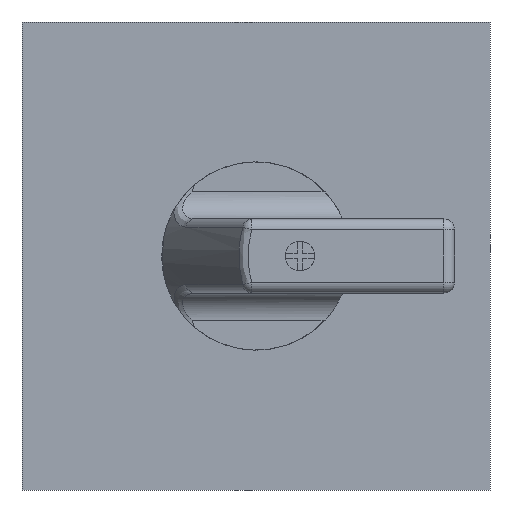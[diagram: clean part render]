
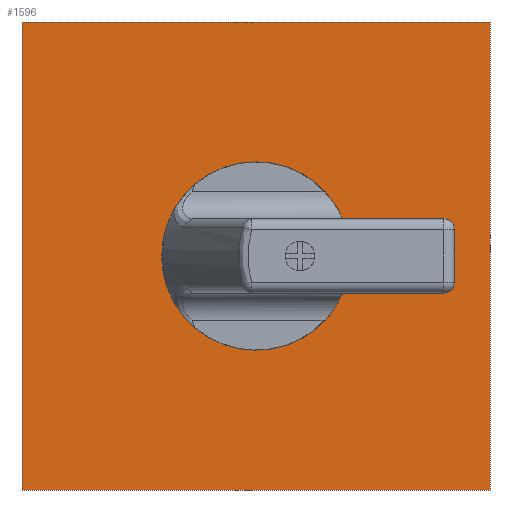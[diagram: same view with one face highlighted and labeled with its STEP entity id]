
A CAD part, front view. The second image highlights one B-rep face of the part: STEP entity #1596.
In plain terms, the highlighted planar face has unit normal (0, -1, 0) as drawn and (0, 1, 0) by its records, which use the part's own axes.
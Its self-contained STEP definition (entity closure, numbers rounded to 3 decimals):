
#704 = FACE_OUTER_BOUND ( 'NONE', #5322, .T. ) ;
#707 = FACE_BOUND ( 'NONE', #5569, .T. ) ;
#1127 = AXIS2_PLACEMENT_3D ( 'NONE', #7460, #7461, #7462 ) ;
#1132 = AXIS2_PLACEMENT_3D ( 'NONE', #7491, #7492, #7493 ) ;
#1596 = ADVANCED_FACE ( 'NONE', ( #704, #707 ), #10787, .T. ) ;
#2406 = CIRCLE ( 'NONE', #1127, 16.94 ) ;
#2421 = LINE ( 'NONE', #7480, #2425 ) ;
#2422 = LINE ( 'NONE', #7479, #2427 ) ;
#2425 = VECTOR ( 'NONE', #7485, 1000. ) ;
#2426 = LINE ( 'NONE', #7487, #2429 ) ;
#2427 = VECTOR ( 'NONE', #7486, 1000. ) ;
#2428 = LINE ( 'NONE', #7489, #2431 ) ;
#2429 = VECTOR ( 'NONE', #7488, 1000. ) ;
#2430 = CIRCLE ( 'NONE', #1132, 16.94 ) ;
#2431 = VECTOR ( 'NONE', #7490, 1000. ) ;
#4751 = VERTEX_POINT ( 'NONE', #8880 ) ;
#4776 = VERTEX_POINT ( 'NONE', #8900 ) ;
#4781 = VERTEX_POINT ( 'NONE', #8899 ) ;
#4929 = VERTEX_POINT ( 'NONE', #8949 ) ;
#4982 = VERTEX_POINT ( 'NONE', #8964 ) ;
#4985 = VERTEX_POINT ( 'NONE', #8971 ) ;
#5137 = ORIENTED_EDGE ( 'NONE', *, *, #8119, .T. ) ;
#5141 = ORIENTED_EDGE ( 'NONE', *, *, #8123, .F. ) ;
#5142 = ORIENTED_EDGE ( 'NONE', *, *, #8122, .T. ) ;
#5143 = ORIENTED_EDGE ( 'NONE', *, *, #8121, .T. ) ;
#5144 = ORIENTED_EDGE ( 'NONE', *, *, #8120, .T. ) ;
#5150 = ORIENTED_EDGE ( 'NONE', *, *, #8109, .F. ) ;
#5322 = EDGE_LOOP ( 'NONE', ( #5137, #5144, #5143, #5142 ) ) ;
#5569 = EDGE_LOOP ( 'NONE', ( #5141, #5150 ) ) ;
#7460 = CARTESIAN_POINT ( 'NONE',  ( 0., 9.3, 0. ) ) ;
#7461 = DIRECTION ( 'NONE',  ( 0., 1., 0. ) ) ;
#7462 = DIRECTION ( 'NONE',  ( 0., 0., 1. ) ) ;
#7479 = CARTESIAN_POINT ( 'NONE',  ( -43.5, 9.3, 43.5 ) ) ;
#7480 = CARTESIAN_POINT ( 'NONE',  ( -43.5, 9.3, -43.5 ) ) ;
#7485 = DIRECTION ( 'NONE',  ( 0., 0., 1. ) ) ;
#7486 = DIRECTION ( 'NONE',  ( 1., 0., 0. ) ) ;
#7487 = CARTESIAN_POINT ( 'NONE',  ( 43.5, 9.3, -43.5 ) ) ;
#7488 = DIRECTION ( 'NONE',  ( 0., 0., -1. ) ) ;
#7489 = CARTESIAN_POINT ( 'NONE',  ( -43.5, 9.3, -43.5 ) ) ;
#7490 = DIRECTION ( 'NONE',  ( -1., 0., 0. ) ) ;
#7491 = CARTESIAN_POINT ( 'NONE',  ( 0., 9.3, 0. ) ) ;
#7492 = DIRECTION ( 'NONE',  ( 0., 1., 0. ) ) ;
#7493 = DIRECTION ( 'NONE',  ( 0., 0., 1. ) ) ;
#8109 = EDGE_CURVE ( 'NONE', #4751, #4985, #2406, .T. ) ;
#8119 = EDGE_CURVE ( 'NONE', #4982, #4776, #2421, .T. ) ;
#8120 = EDGE_CURVE ( 'NONE', #4776, #4781, #2422, .T. ) ;
#8121 = EDGE_CURVE ( 'NONE', #4781, #4929, #2426, .T. ) ;
#8122 = EDGE_CURVE ( 'NONE', #4929, #4982, #2428, .T. ) ;
#8123 = EDGE_CURVE ( 'NONE', #4985, #4751, #2430, .T. ) ;
#8753 = AXIS2_PLACEMENT_3D ( 'NONE', #10781, #10789, #10790 ) ;
#8880 = CARTESIAN_POINT ( 'NONE',  ( 0., 9.3, 16.94 ) ) ;
#8899 = CARTESIAN_POINT ( 'NONE',  ( 43.5, 9.3, 43.5 ) ) ;
#8900 = CARTESIAN_POINT ( 'NONE',  ( -43.5, 9.3, 43.5 ) ) ;
#8949 = CARTESIAN_POINT ( 'NONE',  ( 43.5, 9.3, -43.5 ) ) ;
#8964 = CARTESIAN_POINT ( 'NONE',  ( -43.5, 9.3, -43.5 ) ) ;
#8971 = CARTESIAN_POINT ( 'NONE',  ( 0., 9.3, -16.94 ) ) ;
#10781 = CARTESIAN_POINT ( 'NONE',  ( 0., 9.3, 0. ) ) ;
#10787 = PLANE ( 'NONE',  #8753 ) ;
#10789 = DIRECTION ( 'NONE',  ( 0., 1., 0. ) ) ;
#10790 = DIRECTION ( 'NONE',  ( 0., 0., 1. ) ) ;
